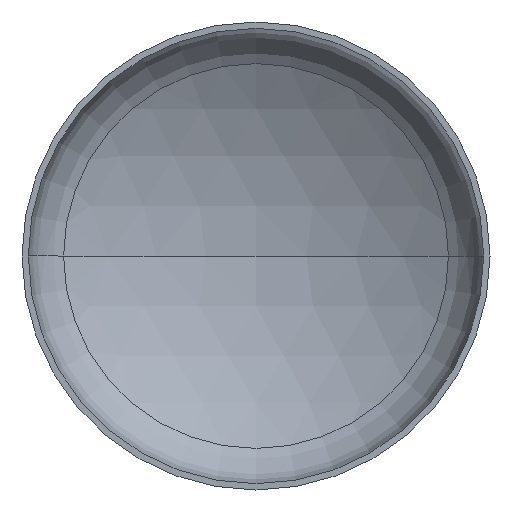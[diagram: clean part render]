
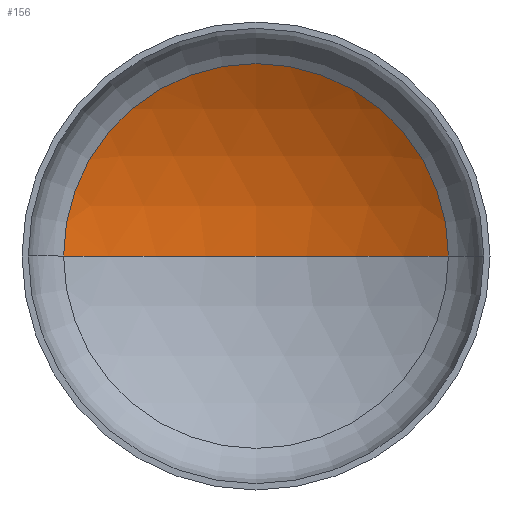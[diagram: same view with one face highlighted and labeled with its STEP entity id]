
A CAD part, front view. The second image highlights one B-rep face of the part: STEP entity #156.
In plain terms, the highlighted spherical face has radius 1600 mm.
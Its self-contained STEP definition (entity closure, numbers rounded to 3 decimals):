
#3 = DIRECTION ( 'NONE',  ( 1., 0., 0. ) ) ;
#4 = CIRCLE ( 'NONE', #34, 822.326 ) ;
#7 = DIRECTION ( 'NONE',  ( 0., -1., 0. ) ) ;
#9 = VERTEX_POINT ( 'NONE', #360 ) ;
#15 = CARTESIAN_POINT ( 'NONE',  ( 0., 350.924, 0. ) ) ;
#26 = AXIS2_PLACEMENT_3D ( 'NONE', #258, #253, #277 ) ;
#30 = AXIS2_PLACEMENT_3D ( 'NONE', #210, #208, #209 ) ;
#31 = AXIS2_PLACEMENT_3D ( 'NONE', #307, #113, #160 ) ;
#34 = AXIS2_PLACEMENT_3D ( 'NONE', #15, #7, #3 ) ;
#67 = VERTEX_POINT ( 'NONE', #247 ) ;
#103 = ORIENTED_EDGE ( 'NONE', *, *, #108, .T. ) ;
#108 = EDGE_CURVE ( 'NONE', #9, #67, #4, .T. ) ;
#110 = EDGE_CURVE ( 'NONE', #131, #9, #357, .T. ) ;
#113 = DIRECTION ( 'NONE',  ( 0., 0., -1. ) ) ;
#114 = EDGE_CURVE ( 'NONE', #131, #67, #410, .T. ) ;
#131 = VERTEX_POINT ( 'NONE', #190 ) ;
#143 = ORIENTED_EDGE ( 'NONE', *, *, #114, .F. ) ;
#151 = ORIENTED_EDGE ( 'NONE', *, *, #110, .T. ) ;
#156 = ADVANCED_FACE ( 'NONE', ( #228 ), #162, .F. ) ;
#160 = DIRECTION ( 'NONE',  ( -1., 0., 0. ) ) ;
#162 = SPHERICAL_SURFACE ( 'NONE', #26, 1600. ) ;
#190 = CARTESIAN_POINT ( 'NONE',  ( 0., 578.415, 0. ) ) ;
#208 = DIRECTION ( 'NONE',  ( 0., 0., 1. ) ) ;
#209 = DIRECTION ( 'NONE',  ( 1., 0., 0. ) ) ;
#210 = CARTESIAN_POINT ( 'NONE',  ( 0., -1021.585, 0. ) ) ;
#228 = FACE_OUTER_BOUND ( 'NONE', #394, .T. ) ;
#247 = CARTESIAN_POINT ( 'NONE',  ( -822.326, 350.924, 0. ) ) ;
#253 = DIRECTION ( 'NONE',  ( 0., 0., -1. ) ) ;
#258 = CARTESIAN_POINT ( 'NONE',  ( 0., -1021.585, 0. ) ) ;
#277 = DIRECTION ( 'NONE',  ( -1., 0., 0. ) ) ;
#307 = CARTESIAN_POINT ( 'NONE',  ( 0., -1021.585, 0. ) ) ;
#357 = CIRCLE ( 'NONE', #31, 1600. ) ;
#360 = CARTESIAN_POINT ( 'NONE',  ( 822.326, 350.924, 0. ) ) ;
#394 = EDGE_LOOP ( 'NONE', ( #143, #151, #103 ) ) ;
#410 = CIRCLE ( 'NONE', #30, 1600. ) ;
